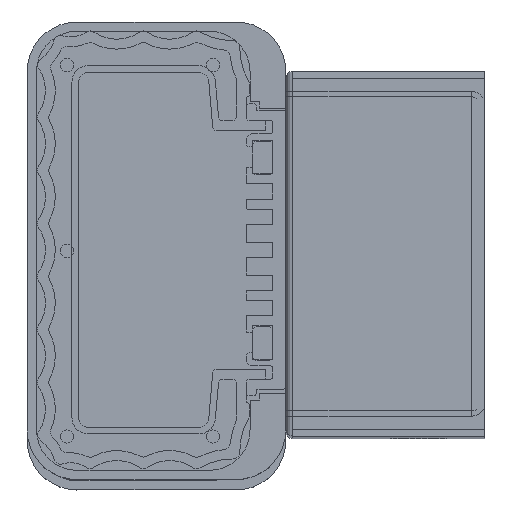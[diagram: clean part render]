
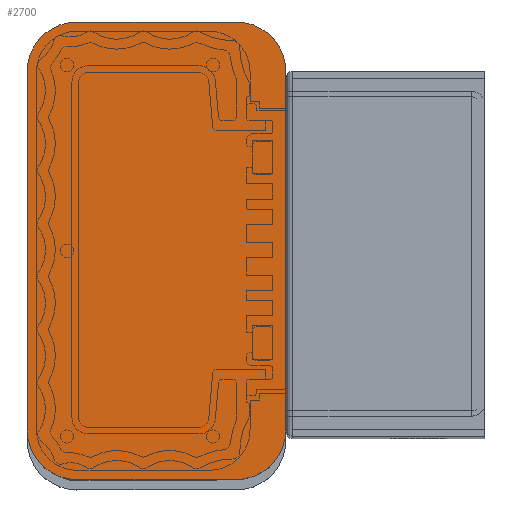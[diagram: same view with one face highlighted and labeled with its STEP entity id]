
A CAD part, top view. The second image highlights one B-rep face of the part: STEP entity #2700.
In plain terms, the highlighted planar face has unit normal (0, 0, 1) as drawn and (0, 0, -1) by its records, which use the part's own axes.
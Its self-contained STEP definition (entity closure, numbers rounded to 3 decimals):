
#178 = VERTEX_POINT ( 'NONE', #7967 ) ;
#249 = CARTESIAN_POINT ( 'NONE',  ( 2569.994, 282.481, 0. ) ) ;
#429 = VECTOR ( 'NONE', #13578, 1000. ) ;
#470 = VECTOR ( 'NONE', #5611, 1000. ) ;
#589 = EDGE_CURVE ( 'NONE', #178, #12229, #13756, .T. ) ;
#704 = EDGE_CURVE ( 'NONE', #5571, #178, #13265, .T. ) ;
#865 = DIRECTION ( 'NONE',  ( 0., 0., 1. ) ) ;
#903 = DIRECTION ( 'NONE',  ( 0., 0., 1. ) ) ;
#1126 = CARTESIAN_POINT ( 'NONE',  ( 2638.994, 282.481, 0. ) ) ;
#1207 = LINE ( 'NONE', #5491, #8148 ) ;
#1612 = DIRECTION ( 'NONE',  ( 0., 0., 1. ) ) ;
#1955 = LINE ( 'NONE', #11386, #429 ) ;
#2064 = DIRECTION ( 'NONE',  ( 1., 0., 0. ) ) ;
#2130 = ORIENTED_EDGE ( 'NONE', *, *, #4027, .F. ) ;
#2661 = CARTESIAN_POINT ( 'NONE',  ( 2631.494, 282.481, 0. ) ) ;
#2685 = VECTOR ( 'NONE', #10508, 1000. ) ;
#2700 = ADVANCED_FACE ( 'NONE', ( #6370 ), #4344, .F. ) ;
#2733 = EDGE_CURVE ( 'NONE', #11440, #3588, #6797, .T. ) ;
#2965 = CARTESIAN_POINT ( 'NONE',  ( 2577.494, 289.981, 0. ) ) ;
#3001 = AXIS2_PLACEMENT_3D ( 'NONE', #2661, #1612, #12720 ) ;
#3131 = VERTEX_POINT ( 'NONE', #13703 ) ;
#3290 = DIRECTION ( 'NONE',  ( 1., 0., 0. ) ) ;
#3382 = DIRECTION ( 'NONE',  ( 1., 0., 0. ) ) ;
#3588 = VERTEX_POINT ( 'NONE', #249 ) ;
#3904 = CIRCLE ( 'NONE', #6141, 7.5 ) ;
#4027 = EDGE_CURVE ( 'NONE', #8908, #5571, #1207, .T. ) ;
#4088 = DIRECTION ( 'NONE',  ( 1., 0., 0. ) ) ;
#4344 = PLANE ( 'NONE',  #9482 ) ;
#4356 = AXIS2_PLACEMENT_3D ( 'NONE', #6447, #7721, #8790 ) ;
#5141 = CARTESIAN_POINT ( 'NONE',  ( 2577.494, 282.481, 0. ) ) ;
#5247 = CIRCLE ( 'NONE', #3001, 7.5 ) ;
#5366 = CARTESIAN_POINT ( 'NONE',  ( 2631.494, 258.481, 0. ) ) ;
#5491 = CARTESIAN_POINT ( 'NONE',  ( 0., 250.981, 0. ) ) ;
#5571 = VERTEX_POINT ( 'NONE', #6202 ) ;
#5611 = DIRECTION ( 'NONE',  ( 0., 1., 0. ) ) ;
#5938 = ORIENTED_EDGE ( 'NONE', *, *, #589, .F. ) ;
#5947 = VERTEX_POINT ( 'NONE', #2965 ) ;
#6020 = EDGE_CURVE ( 'NONE', #5947, #3588, #3904, .T. ) ;
#6141 = AXIS2_PLACEMENT_3D ( 'NONE', #5141, #865, #4088 ) ;
#6202 = CARTESIAN_POINT ( 'NONE',  ( 2631.494, 250.981, 0. ) ) ;
#6370 = FACE_OUTER_BOUND ( 'NONE', #7101, .T. ) ;
#6447 = CARTESIAN_POINT ( 'NONE',  ( 2577.494, 258.481, 0. ) ) ;
#6797 = LINE ( 'NONE', #11949, #470 ) ;
#7053 = CARTESIAN_POINT ( 'NONE',  ( 2638.994, 0., 0. ) ) ;
#7101 = EDGE_LOOP ( 'NONE', ( #2130, #9365, #13243, #10375, #7855, #11803, #5938, #9523 ) ) ;
#7190 = CARTESIAN_POINT ( 'NONE',  ( 2577.494, 250.981, 0. ) ) ;
#7721 = DIRECTION ( 'NONE',  ( 0., 0., 1. ) ) ;
#7855 = ORIENTED_EDGE ( 'NONE', *, *, #7867, .F. ) ;
#7867 = EDGE_CURVE ( 'NONE', #3131, #5947, #1955, .T. ) ;
#7967 = CARTESIAN_POINT ( 'NONE',  ( 2638.994, 258.481, 0. ) ) ;
#8148 = VECTOR ( 'NONE', #3382, 1000. ) ;
#8636 = CIRCLE ( 'NONE', #4356, 7.5 ) ;
#8790 = DIRECTION ( 'NONE',  ( 1., 0., 0. ) ) ;
#8908 = VERTEX_POINT ( 'NONE', #7190 ) ;
#9365 = ORIENTED_EDGE ( 'NONE', *, *, #13475, .F. ) ;
#9482 = AXIS2_PLACEMENT_3D ( 'NONE', #13789, #903, #3290 ) ;
#9523 = ORIENTED_EDGE ( 'NONE', *, *, #704, .F. ) ;
#9680 = CARTESIAN_POINT ( 'NONE',  ( 2569.994, 258.481, 0. ) ) ;
#10375 = ORIENTED_EDGE ( 'NONE', *, *, #6020, .F. ) ;
#10508 = DIRECTION ( 'NONE',  ( 0., 1., 0. ) ) ;
#11386 = CARTESIAN_POINT ( 'NONE',  ( 0., 289.981, 0. ) ) ;
#11440 = VERTEX_POINT ( 'NONE', #9680 ) ;
#11803 = ORIENTED_EDGE ( 'NONE', *, *, #13340, .F. ) ;
#11949 = CARTESIAN_POINT ( 'NONE',  ( 2569.994, 0., 0. ) ) ;
#12229 = VERTEX_POINT ( 'NONE', #1126 ) ;
#12720 = DIRECTION ( 'NONE',  ( 1., 0., 0. ) ) ;
#12831 = DIRECTION ( 'NONE',  ( 0., 0., 1. ) ) ;
#13243 = ORIENTED_EDGE ( 'NONE', *, *, #2733, .T. ) ;
#13265 = CIRCLE ( 'NONE', #13483, 7.5 ) ;
#13340 = EDGE_CURVE ( 'NONE', #12229, #3131, #5247, .T. ) ;
#13475 = EDGE_CURVE ( 'NONE', #11440, #8908, #8636, .T. ) ;
#13483 = AXIS2_PLACEMENT_3D ( 'NONE', #5366, #12831, #2064 ) ;
#13578 = DIRECTION ( 'NONE',  ( -1., 0., 0. ) ) ;
#13703 = CARTESIAN_POINT ( 'NONE',  ( 2631.494, 289.981, 0. ) ) ;
#13756 = LINE ( 'NONE', #7053, #2685 ) ;
#13789 = CARTESIAN_POINT ( 'NONE',  ( 0., 0., 0. ) ) ;
